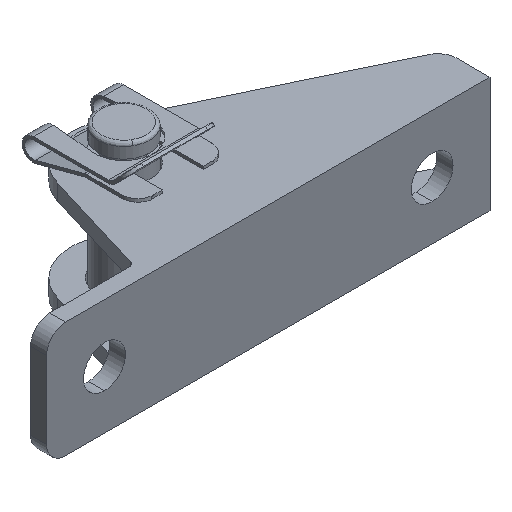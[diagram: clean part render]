
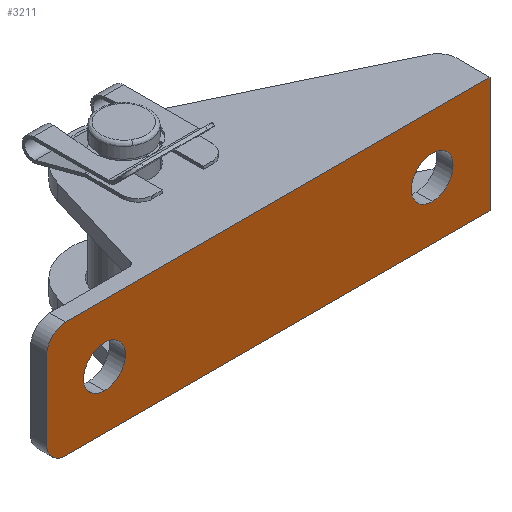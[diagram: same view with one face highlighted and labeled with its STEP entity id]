
A CAD part, isometric view. The second image highlights one B-rep face of the part: STEP entity #3211.
In plain terms, the highlighted planar face has unit normal (0, -1, 0) as drawn and (0, 0, -1) by its records, which use the part's own axes.
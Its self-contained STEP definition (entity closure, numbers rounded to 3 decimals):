
#22 = EDGE_LOOP ( 'NONE', ( #2884, #573 ) ) ;
#67 = LINE ( 'NONE', #733, #3003 ) ;
#76 = FACE_BOUND ( 'NONE', #2959, .T. ) ;
#129 = CARTESIAN_POINT ( 'NONE',  ( 6., 29., 0. ) ) ;
#202 = CARTESIAN_POINT ( 'NONE',  ( 9., 26., 0. ) ) ;
#241 = PLANE ( 'NONE',  #1830 ) ;
#242 = DIRECTION ( 'NONE',  ( 0., 0., -1. ) ) ;
#401 = AXIS2_PLACEMENT_3D ( 'NONE', #2691, #1272, #2131 ) ;
#519 = CARTESIAN_POINT ( 'NONE',  ( -6., 26., 0. ) ) ;
#573 = ORIENTED_EDGE ( 'NONE', *, *, #3155, .T. ) ;
#635 = DIRECTION ( 'NONE',  ( -1., 0., 0. ) ) ;
#671 = CIRCLE ( 'NONE', #1579, 3.25 ) ;
#673 = DIRECTION ( 'NONE',  ( -1., 0., 0. ) ) ;
#725 = VERTEX_POINT ( 'NONE', #202 ) ;
#733 = CARTESIAN_POINT ( 'NONE',  ( -9., 0., 0. ) ) ;
#748 = LINE ( 'NONE', #2438, #1949 ) ;
#777 = VERTEX_POINT ( 'NONE', #3632 ) ;
#851 = ORIENTED_EDGE ( 'NONE', *, *, #2792, .T. ) ;
#872 = AXIS2_PLACEMENT_3D ( 'NONE', #2350, #1795, #2084 ) ;
#1055 = AXIS2_PLACEMENT_3D ( 'NONE', #519, #242, #2524 ) ;
#1077 = DIRECTION ( 'NONE',  ( 0., 0., 1. ) ) ;
#1083 = EDGE_CURVE ( 'NONE', #2729, #1349, #3646, .T. ) ;
#1108 = CIRCLE ( 'NONE', #872, 3. ) ;
#1185 = ORIENTED_EDGE ( 'NONE', *, *, #3115, .F. ) ;
#1228 = EDGE_CURVE ( 'NONE', #1591, #2430, #67, .T. ) ;
#1232 = CARTESIAN_POINT ( 'NONE',  ( 3.25, 20., 0. ) ) ;
#1251 = VECTOR ( 'NONE', #635, 1000. ) ;
#1258 = ORIENTED_EDGE ( 'NONE', *, *, #1975, .T. ) ;
#1261 = EDGE_CURVE ( 'NONE', #725, #2294, #1108, .T. ) ;
#1267 = CARTESIAN_POINT ( 'NONE',  ( 9., 0., 0. ) ) ;
#1272 = DIRECTION ( 'NONE',  ( 0., 0., 1. ) ) ;
#1349 = VERTEX_POINT ( 'NONE', #3256 ) ;
#1356 = DIRECTION ( 'NONE',  ( -1., 0., 0. ) ) ;
#1369 = CARTESIAN_POINT ( 'NONE',  ( -9., -40., 0. ) ) ;
#1373 = DIRECTION ( 'NONE',  ( 0., 0., -1. ) ) ;
#1383 = CARTESIAN_POINT ( 'NONE',  ( 9., -40., 0. ) ) ;
#1474 = ORIENTED_EDGE ( 'NONE', *, *, #1261, .F. ) ;
#1519 = EDGE_CURVE ( 'NONE', #777, #2294, #748, .T. ) ;
#1544 = CIRCLE ( 'NONE', #2960, 3.25 ) ;
#1574 = DIRECTION ( 'NONE',  ( 1., 0., 0. ) ) ;
#1579 = AXIS2_PLACEMENT_3D ( 'NONE', #2093, #3275, #3237 ) ;
#1591 = VERTEX_POINT ( 'NONE', #1369 ) ;
#1795 = DIRECTION ( 'NONE',  ( 0., 0., 1. ) ) ;
#1813 = ORIENTED_EDGE ( 'NONE', *, *, #2977, .T. ) ;
#1830 = AXIS2_PLACEMENT_3D ( 'NONE', #3065, #1373, #3361 ) ;
#1926 = DIRECTION ( 'NONE',  ( 0., 1., 0. ) ) ;
#1949 = VECTOR ( 'NONE', #1574, 1000. ) ;
#1959 = VECTOR ( 'NONE', #1926, 1000. ) ;
#1975 = EDGE_CURVE ( 'NONE', #2430, #777, #2953, .T. ) ;
#2025 = VERTEX_POINT ( 'NONE', #3700 ) ;
#2050 = AXIS2_PLACEMENT_3D ( 'NONE', #3209, #2365, #673 ) ;
#2084 = DIRECTION ( 'NONE',  ( 1., 0., 0. ) ) ;
#2093 = CARTESIAN_POINT ( 'NONE',  ( 0., 20., 0. ) ) ;
#2131 = DIRECTION ( 'NONE',  ( -1., 0., 0. ) ) ;
#2175 = ORIENTED_EDGE ( 'NONE', *, *, #1228, .T. ) ;
#2294 = VERTEX_POINT ( 'NONE', #129 ) ;
#2341 = LINE ( 'NONE', #1267, #1959 ) ;
#2350 = CARTESIAN_POINT ( 'NONE',  ( 6., 26., 0. ) ) ;
#2365 = DIRECTION ( 'NONE',  ( 0., 0., 1. ) ) ;
#2408 = VERTEX_POINT ( 'NONE', #1232 ) ;
#2430 = VERTEX_POINT ( 'NONE', #3474 ) ;
#2438 = CARTESIAN_POINT ( 'NONE',  ( 0., 29., 0. ) ) ;
#2524 = DIRECTION ( 'NONE',  ( 1., 0., 0. ) ) ;
#2532 = EDGE_LOOP ( 'NONE', ( #1258, #2752, #1474, #1185, #1813, #2175 ) ) ;
#2661 = CARTESIAN_POINT ( 'NONE',  ( 0., -40., 0. ) ) ;
#2681 = EDGE_CURVE ( 'NONE', #2408, #2025, #3696, .T. ) ;
#2691 = CARTESIAN_POINT ( 'NONE',  ( 0., 20., 0. ) ) ;
#2728 = DIRECTION ( 'NONE',  ( 0., 1., 0. ) ) ;
#2729 = VERTEX_POINT ( 'NONE', #2990 ) ;
#2752 = ORIENTED_EDGE ( 'NONE', *, *, #1519, .T. ) ;
#2792 = EDGE_CURVE ( 'NONE', #2025, #2408, #671, .T. ) ;
#2872 = FACE_OUTER_BOUND ( 'NONE', #2532, .T. ) ;
#2884 = ORIENTED_EDGE ( 'NONE', *, *, #1083, .T. ) ;
#2953 = CIRCLE ( 'NONE', #1055, 3. ) ;
#2959 = EDGE_LOOP ( 'NONE', ( #851, #3117 ) ) ;
#2960 = AXIS2_PLACEMENT_3D ( 'NONE', #3601, #1077, #1356 ) ;
#2977 = EDGE_CURVE ( 'NONE', #3220, #1591, #3193, .T. ) ;
#2990 = CARTESIAN_POINT ( 'NONE',  ( -3.25, -31., 0. ) ) ;
#3003 = VECTOR ( 'NONE', #2728, 1000. ) ;
#3065 = CARTESIAN_POINT ( 'NONE',  ( 0., 0., 0. ) ) ;
#3115 = EDGE_CURVE ( 'NONE', #3220, #725, #2341, .T. ) ;
#3117 = ORIENTED_EDGE ( 'NONE', *, *, #2681, .T. ) ;
#3155 = EDGE_CURVE ( 'NONE', #1349, #2729, #1544, .T. ) ;
#3193 = LINE ( 'NONE', #2661, #1251 ) ;
#3209 = CARTESIAN_POINT ( 'NONE',  ( 0., -31., 0. ) ) ;
#3211 = ADVANCED_FACE ( 'NONE', ( #3337, #76, #2872 ), #241, .T. ) ;
#3220 = VERTEX_POINT ( 'NONE', #1383 ) ;
#3237 = DIRECTION ( 'NONE',  ( -1., 0., 0. ) ) ;
#3256 = CARTESIAN_POINT ( 'NONE',  ( 3.25, -31., 0. ) ) ;
#3275 = DIRECTION ( 'NONE',  ( 0., 0., 1. ) ) ;
#3337 = FACE_BOUND ( 'NONE', #22, .T. ) ;
#3361 = DIRECTION ( 'NONE',  ( -1., 0., 0. ) ) ;
#3474 = CARTESIAN_POINT ( 'NONE',  ( -9., 26., 0. ) ) ;
#3601 = CARTESIAN_POINT ( 'NONE',  ( 0., -31., 0. ) ) ;
#3632 = CARTESIAN_POINT ( 'NONE',  ( -6., 29., 0. ) ) ;
#3646 = CIRCLE ( 'NONE', #2050, 3.25 ) ;
#3696 = CIRCLE ( 'NONE', #401, 3.25 ) ;
#3700 = CARTESIAN_POINT ( 'NONE',  ( -3.25, 20., 0. ) ) ;
